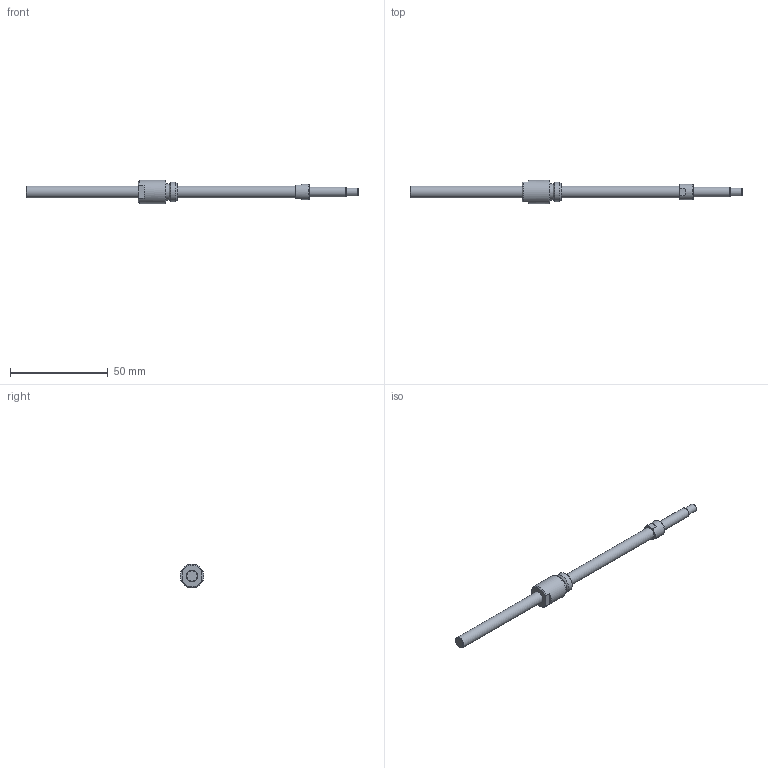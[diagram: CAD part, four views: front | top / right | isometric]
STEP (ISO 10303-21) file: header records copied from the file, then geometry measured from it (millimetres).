
FILE_DESCRIPTION(/* description */ ('STEP AP214'),/* implementation_level */ '2;1');
FILE_NAME(/* name */ 'NSG0601-135R170C5A0X(57.5)',/* time_stamp */ '2026-08-20T15:46:07+02:00',/* author */ ('License CC BY-ND 4.0'),/* organization */ ('CADENAS'),/* preprocessor_version */ 'ST-DEVELOPER v20',/* originating_system */ 'PARTsolutions',/* authorisation */ ' ');
FILE_SCHEMA (('AUTOMOTIVE_DESIGN {1 0 10303 214 3 1 1}'));
Length unit declared in the file: millimetre
Products named in the file (3): NSG0601-135R170C5A0X(57.5); NSG0601-135R170C3A_shaft; NSG0601_nut
Assembly tree (2 placements, depth 2):
  NSG0601-135R170C5A0X(57.5)
    NSG0601-135R170C3A_shaft
    NSG0601_nut
Bounding box: 170 x 12 x 12 mm (x, y, z)
Volume: 6091.4 mm3; surface area: 4493.7 mm2
Topology: 2 solids, 2 shells, 34 faces, 69 edges, 43 vertices
Faces by surface type: plane 16, cone 9, cylinder 8, torus 1
Full cylindrical faces by diameter (mm): 4 x1, 5 x1, 6 x2, 8 x1, 8.4 x1, 10 x1, 12 x1
Entity records: 877 total; most frequent: DIRECTION 152, CARTESIAN_POINT 141, ORIENTED_EDGE 102, AXIS2_PLACEMENT_3D 68, EDGE_LOOP 56, FACE_BOUND 56, EDGE_CURVE 51, VERTEX_POINT 41
